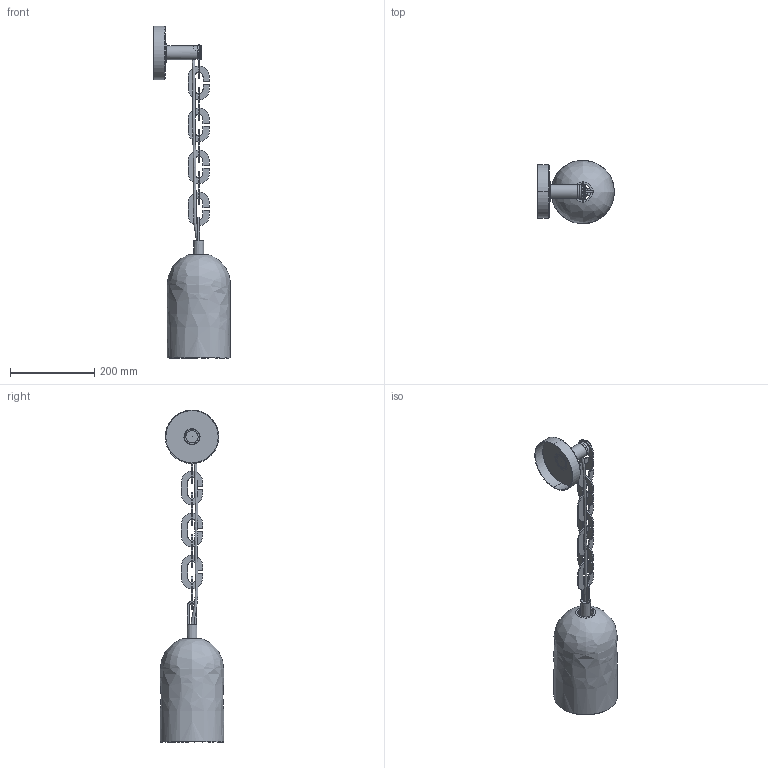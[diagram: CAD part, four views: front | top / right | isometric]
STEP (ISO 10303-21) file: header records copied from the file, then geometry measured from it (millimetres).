
FILE_DESCRIPTION(/* description */ (''),/* implementation_level */ '2;1');
FILE_NAME(/* name */ 'SkLO_LT334_DomeSconce_3D',/* time_stamp */ '2025-03-14T19:37:44+01:00',/* author */ (''),/* organization */ (''),/* preprocessor_version */ 'ST-DEVELOPER v16.5',/* originating_system */ 'Rhino 7.38',/* authorisation */ '');
FILE_SCHEMA (('CONFIG_CONTROL_DESIGN'));
Length unit declared in the file: millimetre
Products named in the file (1): Document
Bounding box: 182.02 x 150 x 787.3 mm (x, y, z)
Volume: 800321.5 mm3; surface area: 396999.7 mm2
Topology: 25 solids, 26 shells, 373 faces, 908 edges, 585 vertices
Faces by surface type: plane 167, cylinder 136, bspline 70
Full cylindrical faces by diameter (mm): 3 x1, 5 x1, 5.065 x4, 6 x2, 8 x1, 8.784 x10, 9 x1, 10.2 x1, 11.445 x26, 12 x1, 23.5 x1, 26 x1, 28 x1, 29 x1, 31.359 x2, 33 x2, 38 x2, 46 x1, 127 x1
Entity records: 176787 total; most frequent: CARTESIAN_POINT 171017, ORIENTED_EDGE 1788, EDGE_CURVE 898, VERTEX_POINT 580, EDGE_LOOP 398, ADVANCED_FACE 373, FACE_OUTER_BOUND 373, DIRECTION 311
